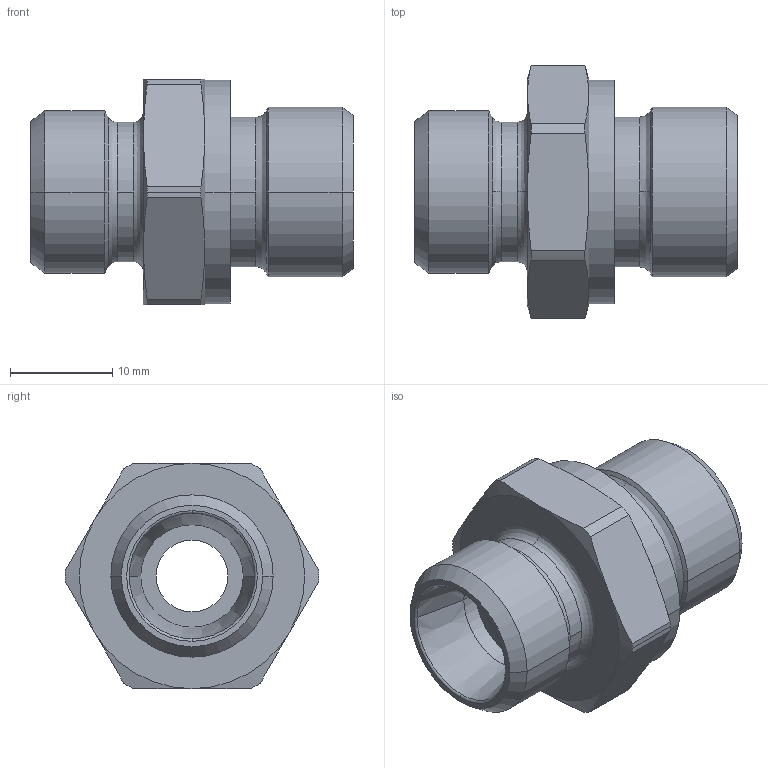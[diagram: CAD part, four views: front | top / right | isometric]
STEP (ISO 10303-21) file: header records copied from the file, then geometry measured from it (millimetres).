
FILE_DESCRIPTION((''),'2;1');
FILE_NAME('100529.stp','2007-10-30T14:36:13',(''),(''),'AutoCAD STEP 2000i','AutoCAD 2000i',', , ');
FILE_SCHEMA(('CONFIG_CONTROL_DESIGN'));
Length unit declared in the file: millimetre
Products named in the file (2): 100529.0; CHIAVE SMUSSATA#0
Assembly tree (1 placements, depth 2):
  100529.0
    CHIAVE SMUSSATA#0
Bounding box: 31.5 x 24.8 x 22 mm (x, y, z)
Volume: 5976.6 mm3; surface area: 3388.9 mm2
Topology: 1 solids, 1 shells, 75 faces, 185 edges, 117 vertices
Faces by surface type: cylinder 24, cone 24, plane 13, bspline 12, torus 2
Entity records: 2835 total; most frequent: CARTESIAN_POINT 955, DIRECTION 410, ORIENTED_EDGE 370, EDGE_CURVE 185, AXIS2_PLACEMENT_3D 184, CIRCLE 119, VERTEX_POINT 117, EDGE_LOOP 82
